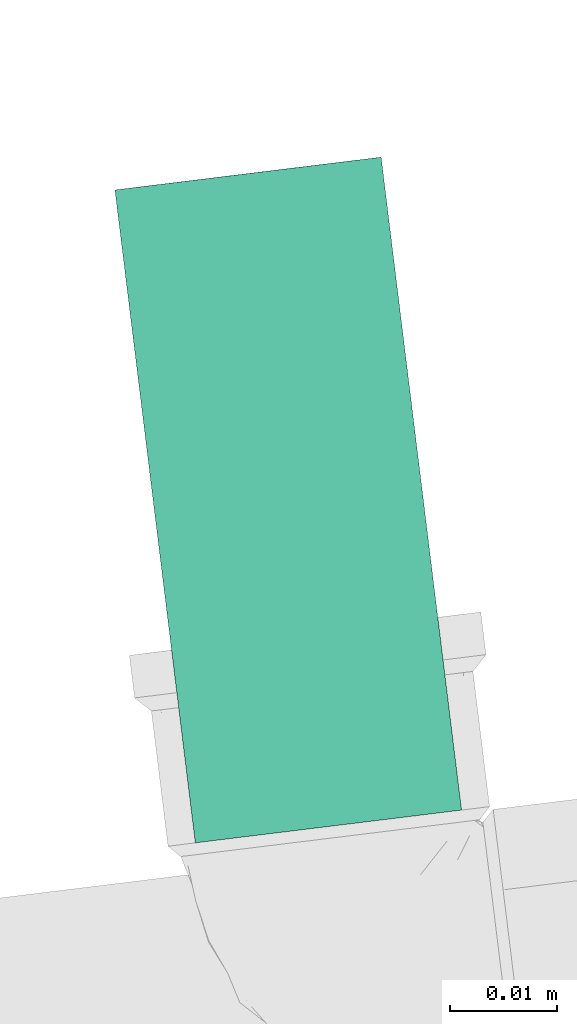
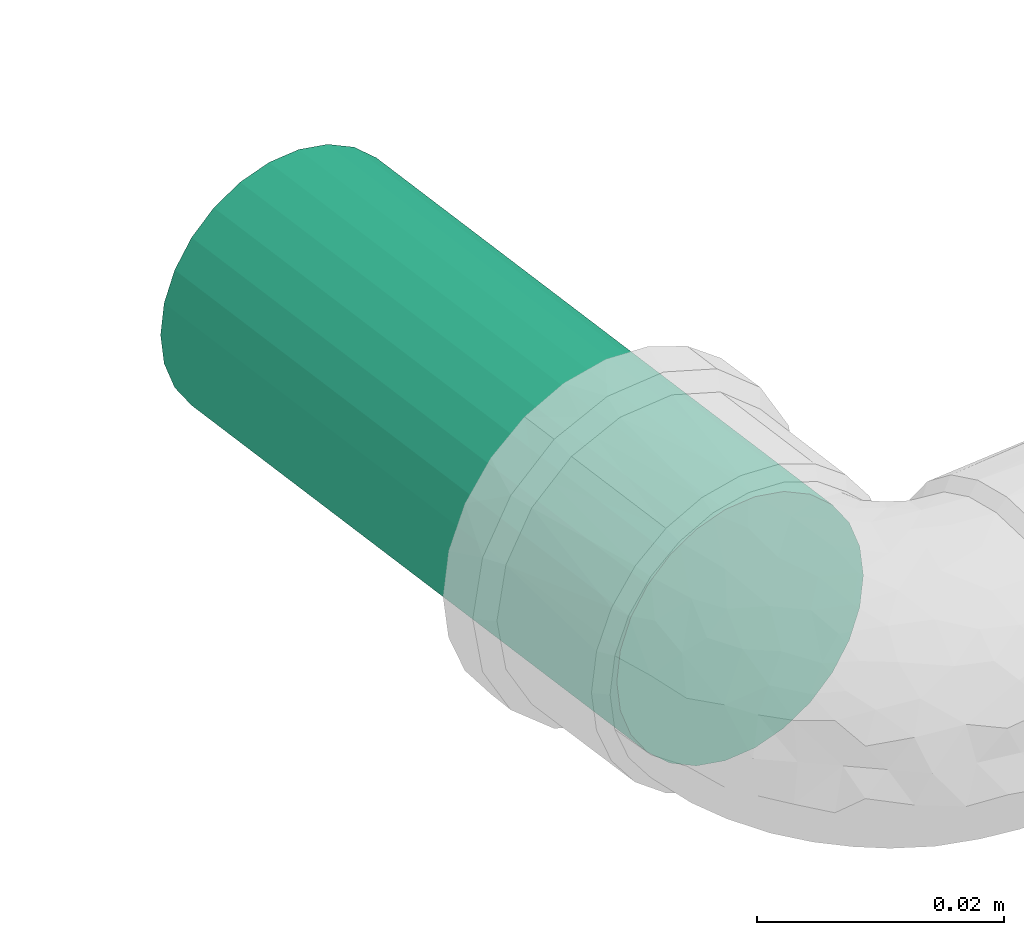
# One storey, part 8 of 8: 1 flow segment.
"""IFC2X3 building model written with IfcOpenShell, lengths in centimetres."""

from ifc_helpers import new_model, entity, si_unit, converted_unit, derived_unit, direction, frame, origin, origin_2d_with_axis, place, context, subcontext, project, spatial, circle, extrude, type_object, element, save


model = new_model("IFC2X3")

# Units and contexts
model_context = context("Model", 3, precision=0.001, world=origin(), true_north=direction((6.12303176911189e-17, 1.0)))
body_context = subcontext(model_context, "Body", "Model", "MODEL_VIEW")
ifc_project = project(units=[si_unit("LENGTHUNIT", "METRE", prefix="CENTI"), si_unit("AREAUNIT", "SQUARE_METRE"), si_unit("VOLUMEUNIT", "CUBIC_METRE"), converted_unit("PLANEANGLEUNIT", "DEGREE", entity("IfcRatioMeasure", 0.0174532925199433), si_unit("PLANEANGLEUNIT", "RADIAN"), dimensions=[0, 0, 0, 0, 0, 0, 0]), si_unit("MASSUNIT", "GRAM", prefix="KILO"), derived_unit("MASSDENSITYUNIT", [(si_unit("MASSUNIT", "GRAM", prefix="KILO"), 1), (si_unit("LENGTHUNIT", "METRE"), -3)]), derived_unit("MOMENTOFINERTIAUNIT", [(si_unit("LENGTHUNIT", "METRE"), 4)]), si_unit("TIMEUNIT", "SECOND"), si_unit("FREQUENCYUNIT", "HERTZ"), si_unit("THERMODYNAMICTEMPERATUREUNIT", "DEGREE_CELSIUS"), derived_unit("THERMALTRANSMITTANCEUNIT", [(si_unit("MASSUNIT", "GRAM", prefix="KILO"), 1), (si_unit("THERMODYNAMICTEMPERATUREUNIT", "KELVIN"), -1), (si_unit("TIMEUNIT", "SECOND"), -3)]), derived_unit("VOLUMETRICFLOWRATEUNIT", [(si_unit("LENGTHUNIT", "METRE"), 3), (si_unit("TIMEUNIT", "SECOND"), -1)]), si_unit("ELECTRICCURRENTUNIT", "AMPERE"), si_unit("ELECTRICVOLTAGEUNIT", "VOLT"), si_unit("POWERUNIT", "WATT"), si_unit("FORCEUNIT", "NEWTON", prefix="KILO"), si_unit("ILLUMINANCEUNIT", "LUX"), si_unit("LUMINOUSFLUXUNIT", "LUMEN"), si_unit("LUMINOUSINTENSITYUNIT", "CANDELA"), derived_unit("USERDEFINED", [(si_unit("MASSUNIT", "GRAM", prefix="KILO"), -1), (si_unit("LENGTHUNIT", "METRE"), -2), (si_unit("TIMEUNIT", "SECOND"), 3), (si_unit("LUMINOUSFLUXUNIT", "LUMEN"), 1)]), derived_unit("LINEARVELOCITYUNIT", [(si_unit("LENGTHUNIT", "METRE"), 1), (si_unit("TIMEUNIT", "SECOND"), -1)]), si_unit("PRESSUREUNIT", "PASCAL"), derived_unit("USERDEFINED", [(si_unit("LENGTHUNIT", "METRE"), -2), (si_unit("MASSUNIT", "GRAM", prefix="KILO"), 1), (si_unit("TIMEUNIT", "SECOND"), -2)]), derived_unit("LINEARFORCEUNIT", [(si_unit("MASSUNIT", "GRAM", prefix="KILO"), 1), (si_unit("LENGTHUNIT", "METRE"), 1), (si_unit("TIMEUNIT", "SECOND"), -2), (si_unit("LENGTHUNIT", "METRE"), -1)]), derived_unit("PLANARFORCEUNIT", [(si_unit("MASSUNIT", "GRAM", prefix="KILO"), 1), (si_unit("LENGTHUNIT", "METRE"), 1), (si_unit("TIMEUNIT", "SECOND"), -2), (si_unit("LENGTHUNIT", "METRE"), -2)])], contexts=[model_context])

# Site, building, storey
site_placement = place(None, origin())
site = spatial("IfcSite", under=ifc_project, at=site_placement, Name="Default", CompositionType="ELEMENT")
building_placement = place(site_placement, origin())
building = spatial("IfcBuilding", under=site, at=building_placement, Name="HIDROSSANITÁRIO", CompositionType="ELEMENT")
storey_placement = place(building_placement, origin())
storey = spatial("IfcBuildingStorey", under=building, at=storey_placement, Name="TERRENO", CompositionType="ELEMENT", Elevation=0.0)

# Flow segment
pipe_segment_type = type_object("IfcPipeSegmentType", Name="Tipos de tubos:Tubo Marrom - Água Fria - Soldável", PredefinedType="NOTDEFINED")
flow_segment_placement = place(storey_placement, origin())
element("IfcFlowSegment", 1, at=flow_segment_placement, inside=storey, type_object=pipe_segment_type, Name="Tipos de tubos:Tubo Marrom - Água Fria - Soldável", ObjectType="Tipos de tubos:Tubo Marrom - Água Fria - Soldável", context=body_context, shape_type="SweptSolid", body=[
    extrude(circle(Radius=1.25, at=origin_2d_with_axis()), frame((-1509.52122853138, 2918.013270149, 17.3902933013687), z_axis=(0.122199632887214, -0.992505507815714, -0.000258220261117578), x_axis=(-0.992505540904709, -0.122199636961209, 0.0)), (0.0, 0.0, 1.0), 6.13152775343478),
])

save(model, "model.ifc")
